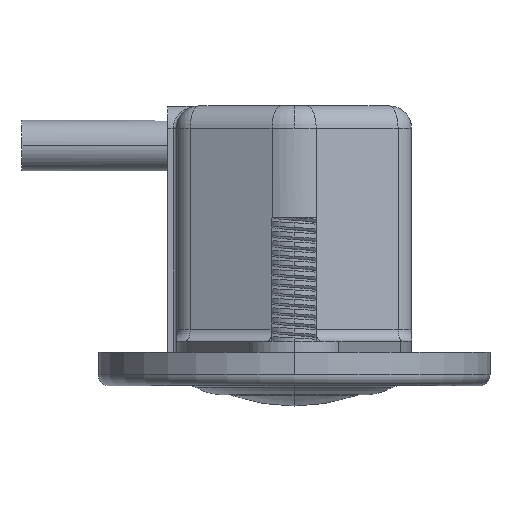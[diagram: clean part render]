
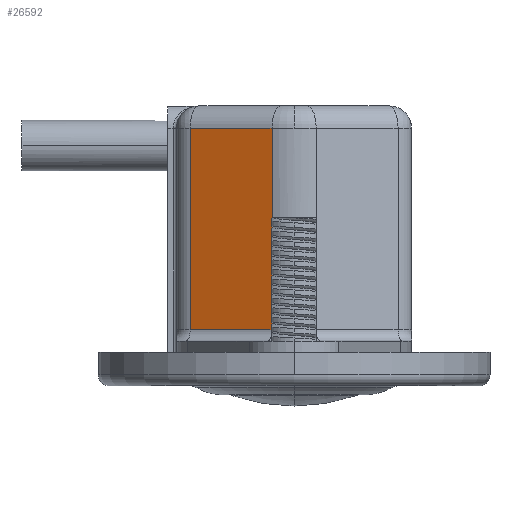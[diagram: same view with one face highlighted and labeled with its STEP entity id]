
A CAD part, left-side view. The second image highlights one B-rep face of the part: STEP entity #26592.
In plain terms, the highlighted planar face has unit normal (-0.919, 0.394, 0).
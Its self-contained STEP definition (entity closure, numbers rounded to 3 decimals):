
#4731 = CARTESIAN_POINT ( 'NONE',  ( -19., 10.5, 5. ) ) ;
#4761 = CARTESIAN_POINT ( 'NONE',  ( -22.656, 1.97, -18.104 ) ) ;
#4762 = DIRECTION ( 'NONE',  ( 0., 0., 1. ) ) ;
#4764 = DIRECTION ( 'NONE',  ( -0.394, -0.919, 0. ) ) ;
#4792 = CARTESIAN_POINT ( 'NONE',  ( -19.519, 9.288, -18.104 ) ) ;
#4793 = DIRECTION ( 'NONE',  ( 0., 0., -1. ) ) ;
#4794 = CARTESIAN_POINT ( 'NONE',  ( -19., 10.5, 23. ) ) ;
#4795 = DIRECTION ( 'NONE',  ( 0.394, 0.919, 0. ) ) ;
#7984 = AXIS2_PLACEMENT_3D ( 'NONE', #8406, #8411, #8412 ) ;
#8403 = PLANE ( 'NONE',  #7984 ) ;
#8406 = CARTESIAN_POINT ( 'NONE',  ( -19., 10.5, -18.104 ) ) ;
#8411 = DIRECTION ( 'NONE',  ( 0.919, -0.394, 0. ) ) ;
#8412 = DIRECTION ( 'NONE',  ( 0.394, 0.919, 0. ) ) ;
#9006 = FACE_OUTER_BOUND ( 'NONE', #26119, .T. ) ;
#21970 = VERTEX_POINT ( 'NONE', #22477 ) ;
#21971 = VERTEX_POINT ( 'NONE', #22478 ) ;
#21972 = VERTEX_POINT ( 'NONE', #22479 ) ;
#21973 = VERTEX_POINT ( 'NONE', #22480 ) ;
#22477 = CARTESIAN_POINT ( 'NONE',  ( -19.519, 9.288, 23. ) ) ;
#22478 = CARTESIAN_POINT ( 'NONE',  ( -19.519, 9.288, 5. ) ) ;
#22479 = CARTESIAN_POINT ( 'NONE',  ( -22.656, 1.97, 5. ) ) ;
#22480 = CARTESIAN_POINT ( 'NONE',  ( -22.656, 1.97, 23. ) ) ;
#23339 = EDGE_CURVE ( 'NONE', #21972, #21973, #24577, .T. ) ;
#23340 = EDGE_CURVE ( 'NONE', #21971, #21972, #24573, .T. ) ;
#23345 = EDGE_CURVE ( 'NONE', #21970, #21971, #24585, .T. ) ;
#23346 = EDGE_CURVE ( 'NONE', #21973, #21970, #24586, .T. ) ;
#23865 = ORIENTED_EDGE ( 'NONE', *, *, #23345, .T. ) ;
#23866 = ORIENTED_EDGE ( 'NONE', *, *, #23340, .T. ) ;
#23867 = ORIENTED_EDGE ( 'NONE', *, *, #23339, .T. ) ;
#23868 = ORIENTED_EDGE ( 'NONE', *, *, #23346, .T. ) ;
#24572 = VECTOR ( 'NONE', #4793, 1000. ) ;
#24573 = LINE ( 'NONE', #4731, #24579 ) ;
#24577 = LINE ( 'NONE', #4761, #24578 ) ;
#24578 = VECTOR ( 'NONE', #4762, 1000. ) ;
#24579 = VECTOR ( 'NONE', #4764, 1000. ) ;
#24585 = LINE ( 'NONE', #4792, #24572 ) ;
#24586 = LINE ( 'NONE', #4794, #24587 ) ;
#24587 = VECTOR ( 'NONE', #4795, 1000. ) ;
#26119 = EDGE_LOOP ( 'NONE', ( #23865, #23866, #23867, #23868 ) ) ;
#26592 = ADVANCED_FACE ( 'NONE', ( #9006 ), #8403, .F. ) ;
